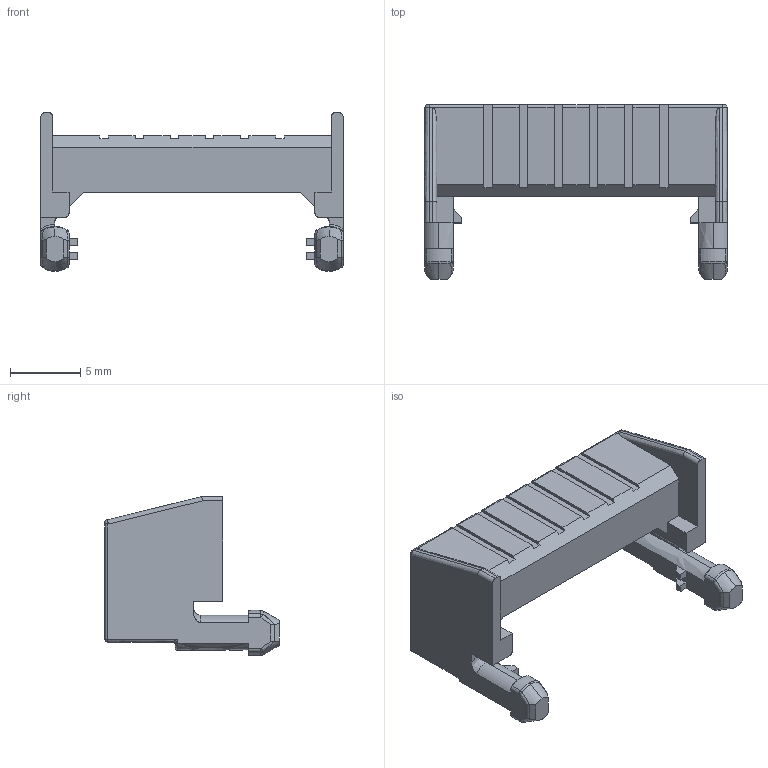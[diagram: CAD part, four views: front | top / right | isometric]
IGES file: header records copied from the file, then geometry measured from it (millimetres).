
Start section: SolidWorks IGES file using analytic representation for surfaces
Bounding box: 21.5 x 12.4 x 11.3 mm (x, y, z)
Surface area: 859.8 mm2 (no closed solid volume)
Topology: 0 solids, 0 shells, 213 faces, 1362 edges, 1354 vertices
Faces by surface type: bspline 129, revolution 84
